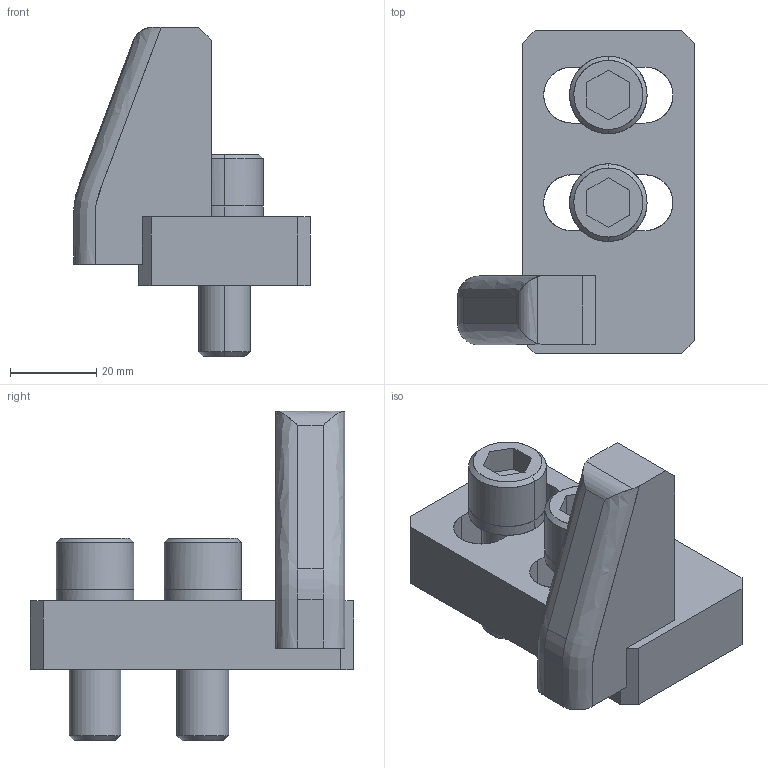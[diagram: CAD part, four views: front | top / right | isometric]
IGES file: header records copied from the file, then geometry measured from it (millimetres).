
Global section: file name: E:\UnigraphicsGraphicData\MISUMI_PRESS-PARTS\IGES\3d_nggbl-60-20-15_01481_r00.igs; native system: NX V5.0; preprocessor: UGS NX IGES V5.0; author: MISUMI; date: 20110105.162033; units: millimetre
Bounding box: 55 x 75 x 76.5 mm (x, y, z)
Surface area: 22812 mm2 (no closed solid volume)
Topology: 0 solids, 0 shells, 103 faces, 662 edges, 662 vertices
Faces by surface type: bspline 103
